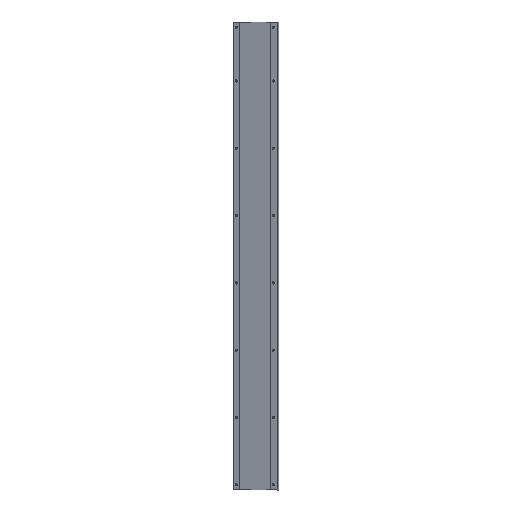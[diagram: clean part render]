
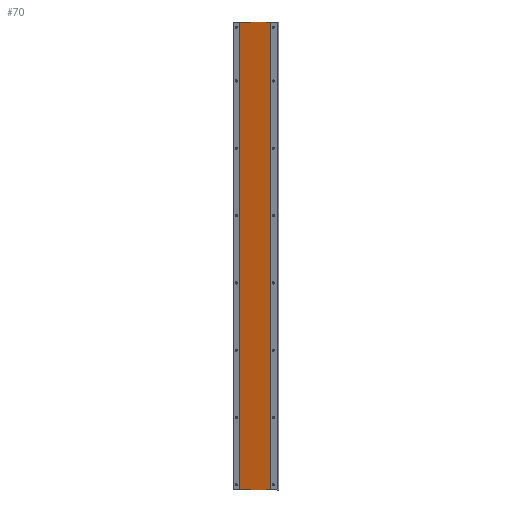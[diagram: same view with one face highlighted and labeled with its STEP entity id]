
A CAD part, left-side view. The second image highlights one B-rep face of the part: STEP entity #70.
In plain terms, the highlighted planar face has unit normal (-0.941, 0.339, 0).
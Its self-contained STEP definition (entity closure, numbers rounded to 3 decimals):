
#70=ADVANCED_FACE('',(#254),#256,.F.);
#254=FACE_BOUND('',#255,.T.);
#255=EDGE_LOOP('',(#459,#460,#461,#462));
#256=PLANE('',#257);
#257=AXIS2_PLACEMENT_3D('',#258,#259,#260);
#258=CARTESIAN_POINT('',(244.631,-88.067,314.58));
#259=DIRECTION('',(0.941,-0.339,0.));
#260=DIRECTION('',(0.339,0.941,0.));
#459=ORIENTED_EDGE('',*,*,#553,.T.);
#460=ORIENTED_EDGE('',*,*,#554,.F.);
#461=ORIENTED_EDGE('',*,*,#541,.F.);
#462=ORIENTED_EDGE('',*,*,#555,.F.);
#541=EDGE_CURVE('',#619,#612,#627,.T.);
#553=EDGE_CURVE('',#649,#650,#651,.T.);
#554=EDGE_CURVE('',#612,#650,#652,.T.);
#555=EDGE_CURVE('',#649,#619,#653,.T.);
#612=VERTEX_POINT('',#776);
#619=VERTEX_POINT('',#793);
#627=LINE('',#811,#812);
#649=VERTEX_POINT('',#865);
#650=VERTEX_POINT('',#866);
#651=LINE('',#867,#868);
#652=LINE('',#870,#871);
#653=LINE('',#873,#874);
#776=CARTESIAN_POINT('',(244.631,-88.067,314.58));
#793=CARTESIAN_POINT('',(244.631,-88.067,1003.96));
#811=CARTESIAN_POINT('',(244.631,-88.067,1003.96));
#812=VECTOR('',#813,1.);
#813=DIRECTION('',(0.,0.,-1.));
#865=CARTESIAN_POINT('',(260.886,-42.888,1003.96));
#866=CARTESIAN_POINT('',(260.886,-42.888,314.58));
#867=CARTESIAN_POINT('',(260.886,-42.888,1003.96));
#868=VECTOR('',#869,1.);
#869=DIRECTION('',(0.,0.,-1.));
#870=CARTESIAN_POINT('',(244.631,-88.067,314.58));
#871=VECTOR('',#872,1.);
#872=DIRECTION('',(0.339,0.941,0.));
#873=CARTESIAN_POINT('',(260.886,-42.888,1003.96));
#874=VECTOR('',#875,1.);
#875=DIRECTION('',(-0.339,-0.941,0.));
